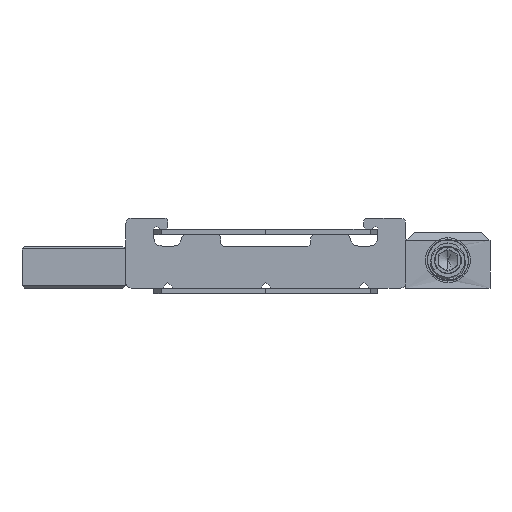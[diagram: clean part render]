
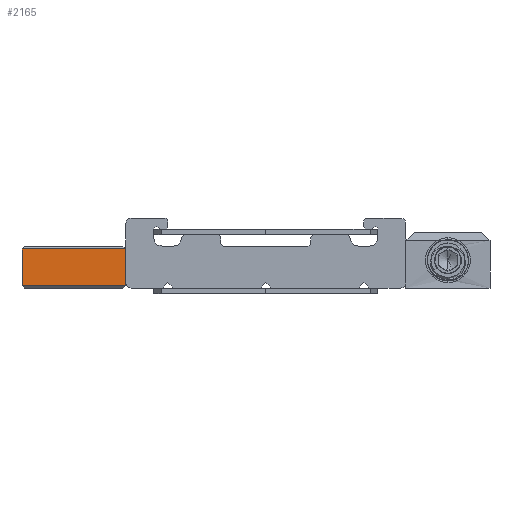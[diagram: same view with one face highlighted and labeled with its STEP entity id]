
A CAD part, left-side view. The second image highlights one B-rep face of the part: STEP entity #2165.
In plain terms, the highlighted planar face has unit normal (-1, 0, 0).
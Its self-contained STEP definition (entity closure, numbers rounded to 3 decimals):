
#134 = LINE ( 'NONE', #3488, #1468 ) ;
#520 = ORIENTED_EDGE ( 'NONE', *, *, #5006, .T. ) ;
#775 = CARTESIAN_POINT ( 'NONE',  ( -7.5, -1.85, 1.5 ) ) ;
#926 = CARTESIAN_POINT ( 'NONE',  ( -7.5, 1.85, 1.5 ) ) ;
#1232 = ORIENTED_EDGE ( 'NONE', *, *, #6612, .T. ) ;
#1408 = VECTOR ( 'NONE', #8081, 1000. ) ;
#1459 = VERTEX_POINT ( 'NONE', #3677 ) ;
#1468 = VECTOR ( 'NONE', #1597, 1000. ) ;
#1597 = DIRECTION ( 'NONE',  ( 0., -1., 0. ) ) ;
#1758 = FACE_OUTER_BOUND ( 'NONE', #7604, .T. ) ;
#2070 = DIRECTION ( 'NONE',  ( 1., 0., 0. ) ) ;
#2162 = DIRECTION ( 'NONE',  ( 0., 0., -1. ) ) ;
#2165 = ADVANCED_FACE ( 'NONE', ( #1758 ), #5410, .F. ) ;
#2650 = CARTESIAN_POINT ( 'NONE',  ( -7.5, 1.85, 0.1 ) ) ;
#2727 = DIRECTION ( 'NONE',  ( 0., 0., -1. ) ) ;
#2763 = ORIENTED_EDGE ( 'NONE', *, *, #3736, .T. ) ;
#3132 = VERTEX_POINT ( 'NONE', #7244 ) ;
#3456 = DIRECTION ( 'NONE',  ( 0., 0., -1. ) ) ;
#3488 = CARTESIAN_POINT ( 'NONE',  ( -7.5, -1.85, 0.1 ) ) ;
#3677 = CARTESIAN_POINT ( 'NONE',  ( -7.5, -1.85, 1.4 ) ) ;
#3718 = CARTESIAN_POINT ( 'NONE',  ( -7.5, -1.85, 0.1 ) ) ;
#3736 = EDGE_CURVE ( 'NONE', #3132, #5537, #6318, .T. ) ;
#3829 = VECTOR ( 'NONE', #3456, 1000. ) ;
#4483 = VECTOR ( 'NONE', #2162, 1000. ) ;
#4792 = CARTESIAN_POINT ( 'NONE',  ( -7.5, -1.85, 1.5 ) ) ;
#4924 = LINE ( 'NONE', #6741, #1408 ) ;
#5006 = EDGE_CURVE ( 'NONE', #1459, #3132, #4924, .T. ) ;
#5126 = VERTEX_POINT ( 'NONE', #3718 ) ;
#5410 = PLANE ( 'NONE',  #6032 ) ;
#5537 = VERTEX_POINT ( 'NONE', #2650 ) ;
#5959 = ORIENTED_EDGE ( 'NONE', *, *, #6561, .F. ) ;
#6032 = AXIS2_PLACEMENT_3D ( 'NONE', #775, #2070, #2727 ) ;
#6318 = LINE ( 'NONE', #926, #4483 ) ;
#6561 = EDGE_CURVE ( 'NONE', #1459, #5126, #7011, .T. ) ;
#6612 = EDGE_CURVE ( 'NONE', #5537, #5126, #134, .T. ) ;
#6741 = CARTESIAN_POINT ( 'NONE',  ( -7.5, 1.85, 1.4 ) ) ;
#7011 = LINE ( 'NONE', #4792, #3829 ) ;
#7244 = CARTESIAN_POINT ( 'NONE',  ( -7.5, 1.85, 1.4 ) ) ;
#7604 = EDGE_LOOP ( 'NONE', ( #2763, #1232, #5959, #520 ) ) ;
#8081 = DIRECTION ( 'NONE',  ( 0., 1., 0. ) ) ;
